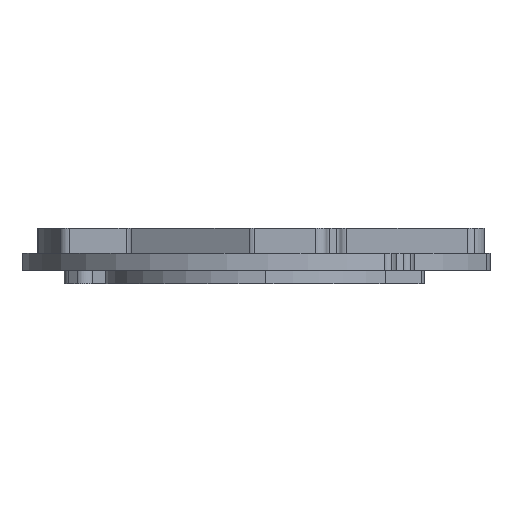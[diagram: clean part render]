
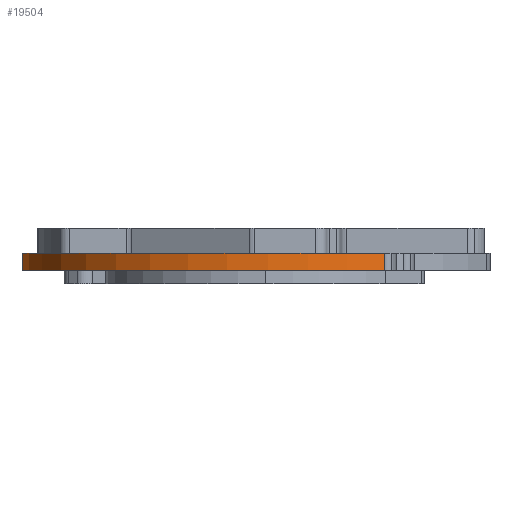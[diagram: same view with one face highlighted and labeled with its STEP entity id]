
A CAD part, left-side view. The second image highlights one B-rep face of the part: STEP entity #19504.
In plain terms, the highlighted cylindrical face has radius 22.4 mm (diameter 44.8 mm), a partial arc.
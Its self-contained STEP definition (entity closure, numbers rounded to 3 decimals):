
#3481 = FACE_OUTER_BOUND ( 'NONE', #23287, .T. ) ;
#7859 = DIRECTION ( 'NONE',  ( 0.42, -0.908, 0. ) ) ;
#7977 = AXIS2_PLACEMENT_3D ( 'NONE', #17836, #14348, #7859 ) ;
#9552 = VERTEX_POINT ( 'NONE', #26090 ) ;
#10489 = CARTESIAN_POINT ( 'NONE',  ( 0.171, 6.993, -1.59 ) ) ;
#11058 = DIRECTION ( 'NONE',  ( 0.42, -0.908, 0. ) ) ;
#11087 = VECTOR ( 'NONE', #26323, 1000. ) ;
#11709 = CIRCLE ( 'NONE', #29505, 22.4 ) ;
#12125 = CARTESIAN_POINT ( 'NONE',  ( 18.063, 40.242, -1.59 ) ) ;
#13705 = VERTEX_POINT ( 'NONE', #21713 ) ;
#13782 = ORIENTED_EDGE ( 'NONE', *, *, #45344, .F. ) ;
#14125 = CYLINDRICAL_SURFACE ( 'NONE', #7977, 22.4 ) ;
#14348 = DIRECTION ( 'NONE',  ( 0., 0., -1. ) ) ;
#16533 = DIRECTION ( 'NONE',  ( 0.42, -0.908, 0. ) ) ;
#17750 = ORIENTED_EDGE ( 'NONE', *, *, #43771, .T. ) ;
#17836 = CARTESIAN_POINT ( 'NONE',  ( 19.734, 17.904, -1.59 ) ) ;
#18491 = DIRECTION ( 'NONE',  ( 0., 0., 1. ) ) ;
#18984 = CIRCLE ( 'NONE', #33760, 22.4 ) ;
#19504 = ADVANCED_FACE ( 'NONE', ( #3481 ), #14125, .T. ) ;
#19519 = CARTESIAN_POINT ( 'NONE',  ( 0.171, 6.993, 0. ) ) ;
#20815 = EDGE_CURVE ( 'NONE', #35420, #9552, #44554, .T. ) ;
#21713 = CARTESIAN_POINT ( 'NONE',  ( 0.171, 6.993, -1.59 ) ) ;
#22064 = ORIENTED_EDGE ( 'NONE', *, *, #43185, .T. ) ;
#23287 = EDGE_LOOP ( 'NONE', ( #17750, #22064, #13782, #33877 ) ) ;
#26090 = CARTESIAN_POINT ( 'NONE',  ( 18.063, 40.242, 0. ) ) ;
#26323 = DIRECTION ( 'NONE',  ( 0., 0., 1. ) ) ;
#27824 = VECTOR ( 'NONE', #31363, 1000. ) ;
#29505 = AXIS2_PLACEMENT_3D ( 'NONE', #36504, #18491, #11058 ) ;
#31363 = DIRECTION ( 'NONE',  ( 0., 0., 1. ) ) ;
#33760 = AXIS2_PLACEMENT_3D ( 'NONE', #44342, #40856, #16533 ) ;
#33877 = ORIENTED_EDGE ( 'NONE', *, *, #20815, .F. ) ;
#35420 = VERTEX_POINT ( 'NONE', #43551 ) ;
#35485 = LINE ( 'NONE', #10489, #27824 ) ;
#35946 = VERTEX_POINT ( 'NONE', #19519 ) ;
#36504 = CARTESIAN_POINT ( 'NONE',  ( 19.734, 17.904, 0. ) ) ;
#40856 = DIRECTION ( 'NONE',  ( 0., 0., 1. ) ) ;
#43185 = EDGE_CURVE ( 'NONE', #13705, #35946, #35485, .T. ) ;
#43551 = CARTESIAN_POINT ( 'NONE',  ( 18.063, 40.242, -1.59 ) ) ;
#43771 = EDGE_CURVE ( 'NONE', #35420, #13705, #18984, .T. ) ;
#44342 = CARTESIAN_POINT ( 'NONE',  ( 19.734, 17.904, -1.59 ) ) ;
#44554 = LINE ( 'NONE', #12125, #11087 ) ;
#45344 = EDGE_CURVE ( 'NONE', #9552, #35946, #11709, .T. ) ;
